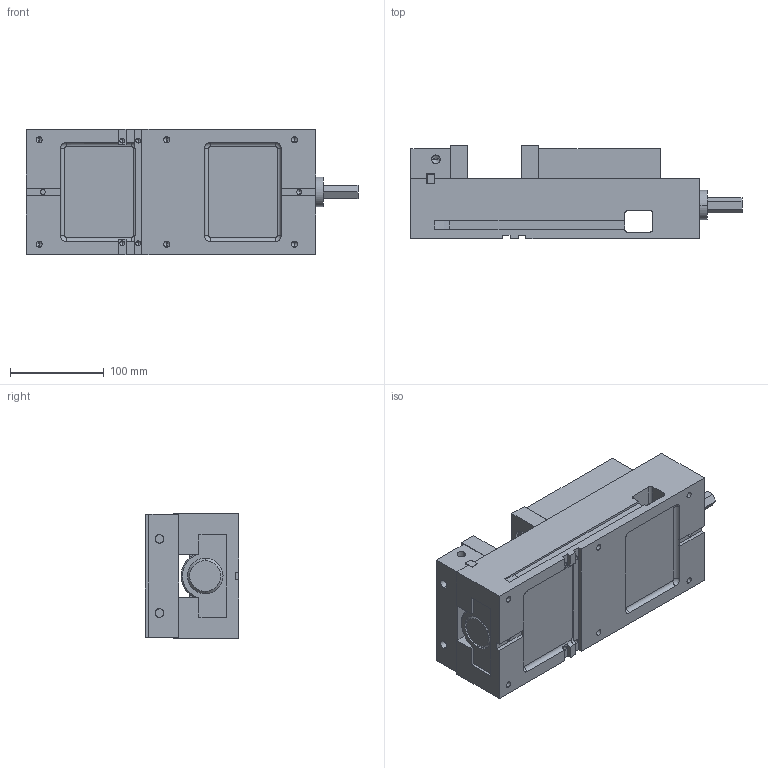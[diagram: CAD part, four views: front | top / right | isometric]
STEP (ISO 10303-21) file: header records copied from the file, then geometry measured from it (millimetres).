
FILE_DESCRIPTION (( 'STEP AP214' ), '1' );
FILE_NAME ('31759_5_Inch_CNC_Vise.STEP', '2016-05-19T13:19:24', ( '' ), ( '' ), 'SwSTEP 2.0', 'SolidWorks 2014', '' );
FILE_SCHEMA (( 'AUTOMOTIVE_DESIGN' ));
Length unit declared in the file: millimetre
Products named in the file (7): 31759_SOFT_JAW; 31759_FIXED JAW; 31759_BASE; 31759_5_Inch_CNC_Vise; 31759_KEY; 31759_SOFT_JAW_SCREW_91251A367; 31759_MOVEABLE JAW
Assembly tree (11 placements, depth 2):
  31759_5_Inch_CNC_Vise
    31759_BASE
    31759_FIXED JAW
    31759_SOFT_JAW  x2
    31759_MOVEABLE JAW
    31759_SOFT_JAW_SCREW_91251A367  x4
    31759_KEY  x2
Bounding box: 355 x 100.2 x 134 mm (x, y, z)
Volume: 2488116.4 mm3; surface area: 360947.6 mm2
Topology: 13 solids, 13 shells, 943 faces, 2520 edges, 1617 vertices
Faces by surface type: cylinder 454, plane 307, cone 89, bspline 85, torus 8
Entity records: 25719 total; most frequent: CARTESIAN_POINT 10232, ORIENTED_EDGE 2878, DIRECTION 2259, EDGE_CURVE 1439, VERTEX_POINT 941, VECTOR 893, LINE 893, AXIS2_PLACEMENT_3D 683
